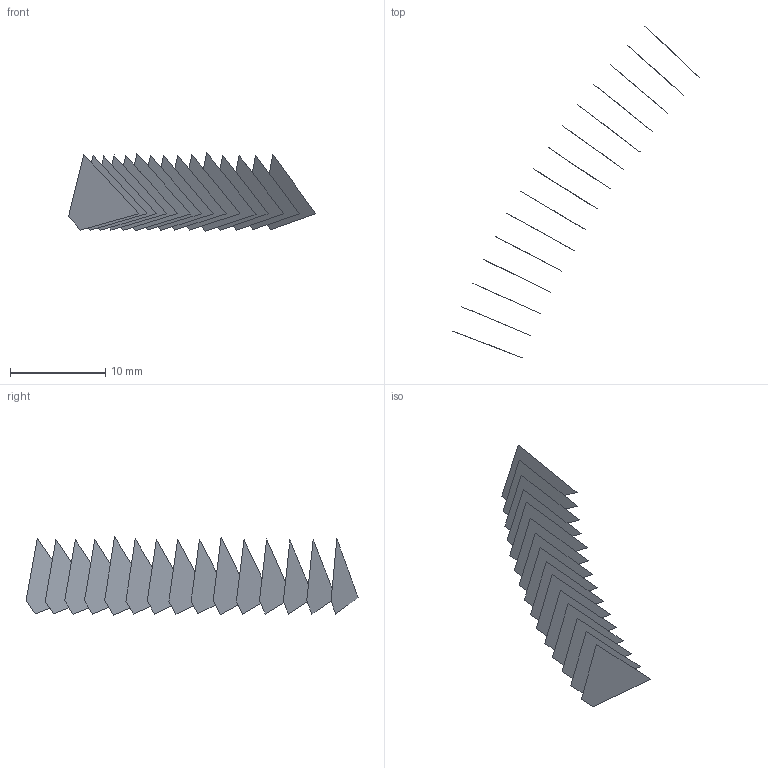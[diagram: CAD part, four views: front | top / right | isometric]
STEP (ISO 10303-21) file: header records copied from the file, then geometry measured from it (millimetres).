
FILE_DESCRIPTION(('FreeCAD Model'),'2;1');
FILE_NAME('Open CASCADE Shape Model','2022-05-21T09:28:00',('FreeCAD'),( 'FreeCAD'),'Open CASCADE STEP processor 7.5','FreeCAD','Unknown');
FILE_SCHEMA(('AUTOMOTIVE_DESIGN { 1 0 10303 214 1 1 1 1 }'));
Length unit declared in the file: millimetre
Products named in the file (16): Open CASCADE STEP translator 7.5 1; Open CASCADE STEP translator 7.5 1.1; Open CASCADE STEP translator 7.5 1.2; Open CASCADE STEP translator 7.5 1.3; Open CASCADE STEP translator 7.5 1.4; Open CASCADE STEP translator 7.5 1.5; Open CASCADE STEP translator 7.5 1.6; Open CASCADE STEP translator 7.5 1.7; Open CASCADE STEP translator 7.5 1.8; Open CASCADE STEP translator 7.5 1.9; Open CASCADE STEP translator 7.5 1.10; Open CASCADE STEP translator 7.5 1.11; Open CASCADE STEP translator 7.5 1.12; Open CASCADE STEP translator 7.5 1.13; Open CASCADE STEP translator 7.5 1.14; Open CASCADE STEP translator 7.5 1.15
Assembly tree (15 placements, depth 2):
  Open CASCADE STEP translator 7.5 1
    Open CASCADE STEP translator 7.5 1.1
    Open CASCADE STEP translator 7.5 1.2
    Open CASCADE STEP translator 7.5 1.3
    Open CASCADE STEP translator 7.5 1.4
    Open CASCADE STEP translator 7.5 1.5
    Open CASCADE STEP translator 7.5 1.6
    Open CASCADE STEP translator 7.5 1.7
    Open CASCADE STEP translator 7.5 1.8
    Open CASCADE STEP translator 7.5 1.9
    Open CASCADE STEP translator 7.5 1.10
    Open CASCADE STEP translator 7.5 1.11
    Open CASCADE STEP translator 7.5 1.12
    Open CASCADE STEP translator 7.5 1.13
    Open CASCADE STEP translator 7.5 1.14
    Open CASCADE STEP translator 7.5 1.15
Bounding box: 25.91 x 34.83 x 8.22 mm (x, y, z)
Surface area: 468.4 mm2 (no closed solid volume)
Topology: 0 solids, 15 shells, 15 faces, 79 edges, 79 vertices
Faces by surface type: bspline 15
Entity records: 1463 total; most frequent: CARTESIAN_POINT 471, B_SPLINE_CURVE_WITH_KNOTS 158, ORIENTED_EDGE 79, EDGE_CURVE 79, VERTEX_POINT 79, SURFACE_CURVE 79, PCURVE 79, DEFINITIONAL_REPRESENTATION 79
